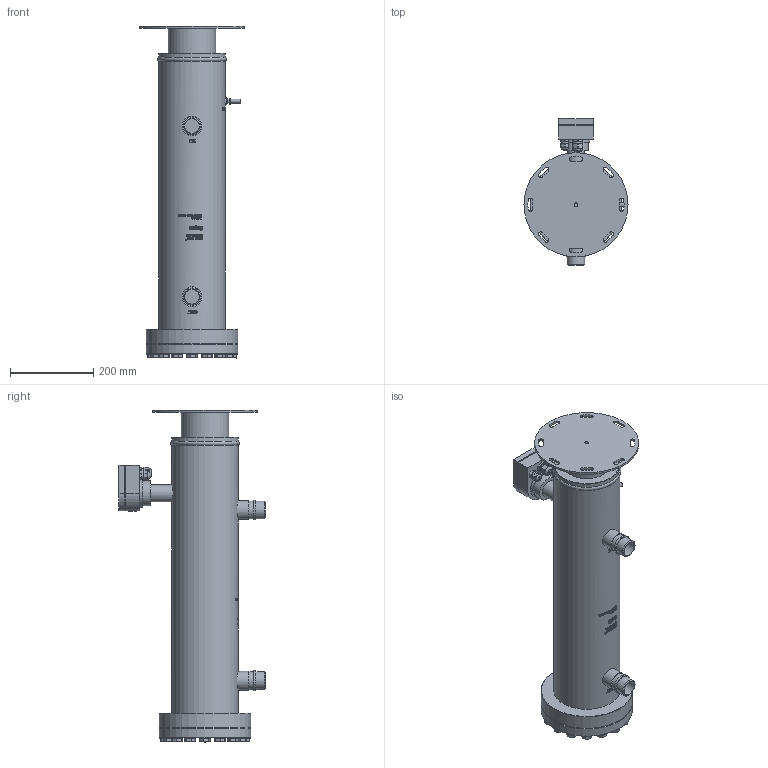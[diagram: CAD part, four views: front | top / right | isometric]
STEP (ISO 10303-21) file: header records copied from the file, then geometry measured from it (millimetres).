
FILE_DESCRIPTION(/* description */ (''),/* implementation_level */ '2;1');
FILE_NAME(/* name */ 'P:\OS\BOS3-CDH-1BFO\BOS3-CDH-1BFO.stp',/* time_stamp */ '2019-08-21T08:27:35+02:00',/* author */ ('neufeld'),/* organization */ (''),/* preprocessor_version */ 'ST-DEVELOPER v17',/* originating_system */ 'Autodesk Inventor 2019',/* authorisation */ '');
FILE_SCHEMA (('AUTOMOTIVE_DESIGN { 1 0 10303 214 3 1 1 }'));
Products named in the file (3): BOS3-CDH-1BFO_Rev.2_AG-Kunde; BOS3-CDH-1BFO_Rev.2_AG-Kunde_1; OSC-1-AG-Kunde
Assembly tree (2 placements, depth 2):
  BOS3-CDH-1BFO_Rev.2_AG-Kunde
    BOS3-CDH-1BFO_Rev.2_AG-Kunde_1
    OSC-1-AG-Kunde
Bounding box: 250 x 351.5 x 797.8 mm (x, y, z)
Volume: 17053284.4 mm3; surface area: 657010.9 mm2
Topology: 2 solids, 2 shells, 2610 faces, 6997 edges, 4675 vertices
Faces by surface type: plane 1215, bspline 966, cylinder 300, cone 120, torus 9
Full cylindrical faces by diameter (mm): 4 x6, 5.9 x1, 6.2 x1, 7 x3, 8.376 x1, 10 x3, 13.5 x1, 14 x1, 15 x1, 16 x1, 20 x1, 20.1 x16, 27.48 x1, 28 x16, 35.2 x2, 41 x1, 42.4 x4, 45 x2, 47.6 x2, 60 x1, 60.4 x1, 66 x1, 114.3 x1, 159 x2, 214 x1, 220 x2, 250 x1
Entity records: 107449 total; most frequent: CARTESIAN_POINT 47256, ORIENTED_EDGE 13972, DIRECTION 9649, EDGE_CURVE 6986, VERTEX_POINT 4659, LINE 3241, VECTOR 3241, AXIS2_PLACEMENT_3D 3204
